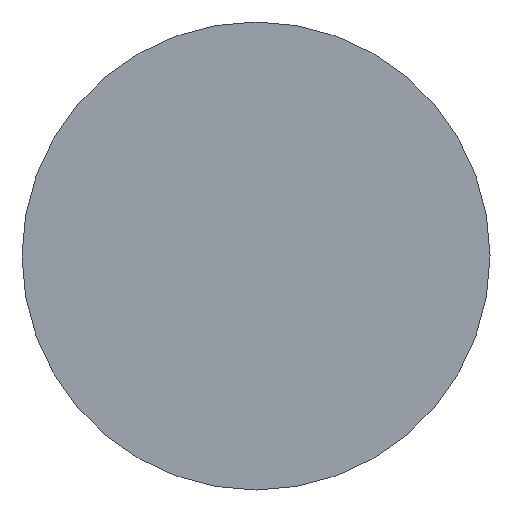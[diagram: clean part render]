
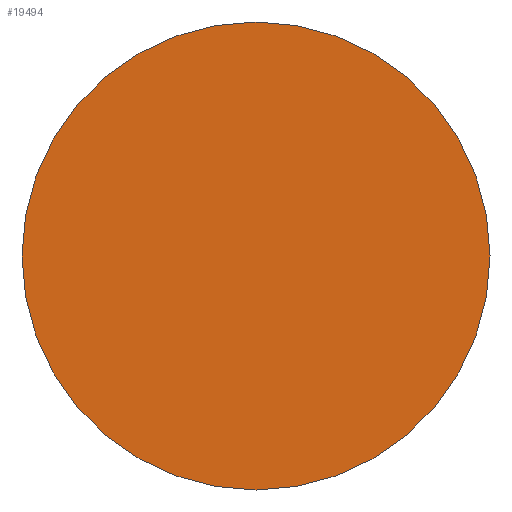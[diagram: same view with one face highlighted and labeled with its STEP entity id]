
A CAD part, front view. The second image highlights one B-rep face of the part: STEP entity #19494.
In plain terms, the highlighted planar face has unit normal (0, -1, 0).
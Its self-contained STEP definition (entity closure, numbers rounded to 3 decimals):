
#1576 = DIRECTION ( 'NONE',  ( 0., 1., 0. ) ) ;
#1681 = AXIS2_PLACEMENT_3D ( 'NONE', #5985, #1576, #26704 ) ;
#2569 = ORIENTED_EDGE ( 'NONE', *, *, #15219, .F. ) ;
#2579 = EDGE_CURVE ( 'NONE', #22379, #26393, #12548, .T. ) ;
#5926 = DIRECTION ( 'NONE',  ( 0., 0., 1. ) ) ;
#5963 = CARTESIAN_POINT ( 'NONE',  ( 3806.071, 153., -5831.515 ) ) ;
#5985 = CARTESIAN_POINT ( 'NONE',  ( 3806.071, 153., -5931.515 ) ) ;
#6337 = CARTESIAN_POINT ( 'NONE',  ( 3806.071, 153., -5931.515 ) ) ;
#7784 = PLANE ( 'NONE',  #1681 ) ;
#8228 = EDGE_LOOP ( 'NONE', ( #14817, #2569 ) ) ;
#8266 = DIRECTION ( 'NONE',  ( 0., 1., 0. ) ) ;
#12447 = FACE_OUTER_BOUND ( 'NONE', #8228, .T. ) ;
#12548 = CIRCLE ( 'NONE', #23057, 100. ) ;
#14817 = ORIENTED_EDGE ( 'NONE', *, *, #2579, .F. ) ;
#15219 = EDGE_CURVE ( 'NONE', #26393, #22379, #20913, .T. ) ;
#16114 = AXIS2_PLACEMENT_3D ( 'NONE', #26187, #20258, #24142 ) ;
#17443 = CARTESIAN_POINT ( 'NONE',  ( 3806.071, 153., -6031.515 ) ) ;
#19494 = ADVANCED_FACE ( 'NONE', ( #12447 ), #7784, .F. ) ;
#20258 = DIRECTION ( 'NONE',  ( 0., 1., 0. ) ) ;
#20913 = CIRCLE ( 'NONE', #16114, 100. ) ;
#22379 = VERTEX_POINT ( 'NONE', #5963 ) ;
#23057 = AXIS2_PLACEMENT_3D ( 'NONE', #6337, #8266, #5926 ) ;
#24142 = DIRECTION ( 'NONE',  ( 0., 0., 1. ) ) ;
#26187 = CARTESIAN_POINT ( 'NONE',  ( 3806.071, 153., -5931.515 ) ) ;
#26393 = VERTEX_POINT ( 'NONE', #17443 ) ;
#26704 = DIRECTION ( 'NONE',  ( 0., 0., 1. ) ) ;
